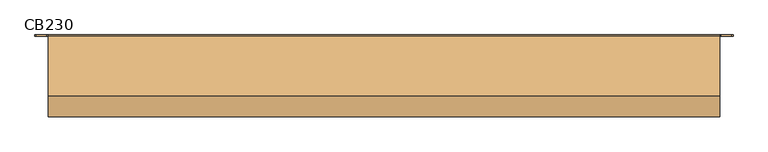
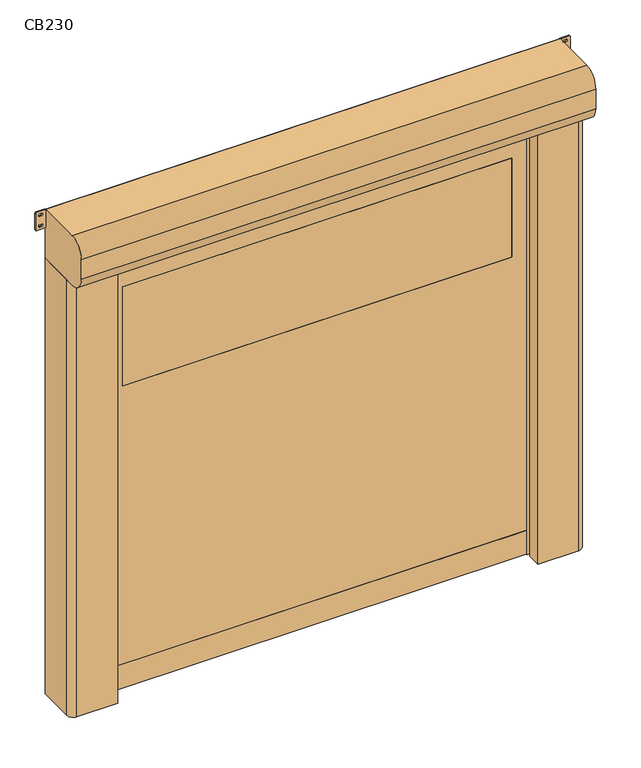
"""IFC4 building model written with IfcOpenShell, lengths in millimetres: door geometry, DO_WPB_Dynamicroll Cleanroom_BMP : CB230."""

from ifc_helpers import new_model, si_unit, point, frame, frame_2d, origin, origin_with_axes, place, context, project, spatial, polyline, circle_curve, trimmed, segment, composite_curve, outline, extrude, source, transform, mapped, element, save


def cb230_7affb9d1(model_context):
    return source(origin(), model_context, "Body", "SweptSolid", [
        extrude(outline(composite_curve([segment(trimmed(circle_curve(frame_2d((1416.6666667, 1136.0)), 6.0), [point((1422.6666667, 1136.0))], [point((1410.6666667, 1136.0))], False, "CARTESIAN"), True, "CONTINUOUS"), segment(polyline([(1410.6666667, 1136.0), (1410.6666667, 1154.0)]), True, "CONTINUOUS"), segment(trimmed(circle_curve(frame_2d((1416.6666667, 1154.0)), 6.0), [point((1410.6666667, 1154.0))], [point((1422.6666667, 1154.0))], False, "CARTESIAN"), True, "CONTINUOUS"), segment(polyline([(1422.6666667, 1154.0), (1422.6666667, 1136.0)]), True, "CONTINUOUS")], self_intersect=False)), frame((0.0, -20.0, 0.0), z_axis=(0.0, 1.0, 0.0), x_axis=(0.0, 0.0, 1.0)), (0.0, 0.0, 1.0), 20.0),
        extrude(outline(composite_curve([segment(trimmed(circle_curve(frame_2d((783.3333333, 1136.0)), 6.0), [point((789.3333333, 1136.0))], [point((777.3333333, 1136.0))], False, "CARTESIAN"), True, "CONTINUOUS"), segment(polyline([(777.3333333, 1136.0), (777.3333333, 1154.0)]), True, "CONTINUOUS"), segment(trimmed(circle_curve(frame_2d((783.3333333, 1154.0)), 6.0), [point((777.3333333, 1154.0))], [point((789.3333333, 1154.0))], False, "CARTESIAN"), True, "CONTINUOUS"), segment(polyline([(789.3333333, 1154.0), (789.3333333, 1136.0)]), True, "CONTINUOUS")], self_intersect=False)), frame((0.0, -20.0, 0.0), z_axis=(0.0, 1.0, 0.0), x_axis=(0.0, 0.0, 1.0)), (0.0, 0.0, 1.0), 20.0),
        extrude(outline(composite_curve([segment(trimmed(circle_curve(frame_2d((2050.0, 1136.0)), 6.0), [point((2056.0, 1136.0))], [point((2044.0, 1136.0))], False, "CARTESIAN"), True, "CONTINUOUS"), segment(polyline([(2044.0, 1136.0), (2044.0, 1154.0)]), True, "CONTINUOUS"), segment(trimmed(circle_curve(frame_2d((2050.0, 1154.0)), 6.0), [point((2044.0, 1154.0))], [point((2056.0, 1154.0))], False, "CARTESIAN"), True, "CONTINUOUS"), segment(polyline([(2056.0, 1154.0), (2056.0, 1136.0)]), True, "CONTINUOUS")], self_intersect=False)), frame((0.0, -20.0, 0.0), z_axis=(0.0, 1.0, 0.0), x_axis=(0.0, 0.0, 1.0)), (0.0, 0.0, 1.0), 20.0),
        extrude(outline(composite_curve([segment(trimmed(circle_curve(frame_2d((150.0, 1136.0)), 6.0), [point((156.0, 1136.0))], [point((144.0, 1136.0))], False, "CARTESIAN"), True, "CONTINUOUS"), segment(polyline([(144.0, 1136.0), (144.0, 1154.0)]), True, "CONTINUOUS"), segment(trimmed(circle_curve(frame_2d((150.0, 1154.0)), 6.0), [point((144.0, 1154.0))], [point((156.0, 1154.0))], False, "CARTESIAN"), True, "CONTINUOUS"), segment(polyline([(156.0, 1154.0), (156.0, 1136.0)]), True, "CONTINUOUS")], self_intersect=False)), frame((0.0, -20.0, 0.0), z_axis=(0.0, 1.0, 0.0), x_axis=(0.0, 0.0, 1.0)), (0.0, 0.0, 1.0), 20.0),
        extrude(outline(composite_curve([segment(polyline([(1422.6666667, -1136.0), (1422.6666667, -1154.0)]), True, "CONTINUOUS"), segment(trimmed(circle_curve(frame_2d((1416.6666667, -1154.0)), 6.0), [point((1422.6666667, -1154.0))], [point((1410.6666667, -1154.0))], False, "CARTESIAN"), True, "CONTINUOUS"), segment(polyline([(1410.6666667, -1154.0), (1410.6666667, -1136.0)]), True, "CONTINUOUS"), segment(trimmed(circle_curve(frame_2d((1416.6666667, -1136.0)), 6.0), [point((1410.6666667, -1136.0))], [point((1422.6666667, -1136.0))], False, "CARTESIAN"), True, "CONTINUOUS")], self_intersect=False)), frame((0.0, -20.0, 0.0), z_axis=(0.0, 1.0, 0.0), x_axis=(0.0, 0.0, 1.0)), (0.0, 0.0, 1.0), 20.0),
        extrude(outline(composite_curve([segment(polyline([(789.3333333, -1136.0), (789.3333333, -1154.0)]), True, "CONTINUOUS"), segment(trimmed(circle_curve(frame_2d((783.3333333, -1154.0)), 6.0), [point((789.3333333, -1154.0))], [point((777.3333333, -1154.0))], False, "CARTESIAN"), True, "CONTINUOUS"), segment(polyline([(777.3333333, -1154.0), (777.3333333, -1136.0)]), True, "CONTINUOUS"), segment(trimmed(circle_curve(frame_2d((783.3333333, -1136.0)), 6.0), [point((777.3333333, -1136.0))], [point((789.3333333, -1136.0))], False, "CARTESIAN"), True, "CONTINUOUS")], self_intersect=False)), frame((0.0, -20.0, 0.0), z_axis=(0.0, 1.0, 0.0), x_axis=(0.0, 0.0, 1.0)), (0.0, 0.0, 1.0), 20.0),
        extrude(outline(composite_curve([segment(polyline([(2056.0, -1136.0), (2056.0, -1154.0)]), True, "CONTINUOUS"), segment(trimmed(circle_curve(frame_2d((2050.0, -1154.0)), 6.0), [point((2056.0, -1154.0))], [point((2044.0, -1154.0))], False, "CARTESIAN"), True, "CONTINUOUS"), segment(polyline([(2044.0, -1154.0), (2044.0, -1136.0)]), True, "CONTINUOUS"), segment(trimmed(circle_curve(frame_2d((2050.0, -1136.0)), 6.0), [point((2044.0, -1136.0))], [point((2056.0, -1136.0))], False, "CARTESIAN"), True, "CONTINUOUS")], self_intersect=False)), frame((0.0, -20.0, 0.0), z_axis=(0.0, 1.0, 0.0), x_axis=(0.0, 0.0, 1.0)), (0.0, 0.0, 1.0), 20.0),
        extrude(outline(composite_curve([segment(polyline([(156.0, -1136.0), (156.0, -1154.0)]), True, "CONTINUOUS"), segment(trimmed(circle_curve(frame_2d((150.0, -1154.0)), 6.0), [point((156.0, -1154.0))], [point((144.0, -1154.0))], False, "CARTESIAN"), True, "CONTINUOUS"), segment(polyline([(144.0, -1154.0), (144.0, -1136.0)]), True, "CONTINUOUS"), segment(trimmed(circle_curve(frame_2d((150.0, -1136.0)), 6.0), [point((144.0, -1136.0))], [point((156.0, -1136.0))], False, "CARTESIAN"), True, "CONTINUOUS")], self_intersect=False)), frame((0.0, -20.0, 0.0), z_axis=(0.0, 1.0, 0.0), x_axis=(0.0, 0.0, 1.0)), (0.0, 0.0, 1.0), 20.0),
        extrude(outline(composite_curve([segment(trimmed(circle_curve(frame_2d((1526.0, 929.0)), 1.0), [point((1525.0, 929.0))], [point((1526.0, 930.0))], False, "CARTESIAN"), True, "CONTINUOUS"), segment(polyline([(1526.0, 930.0), (2024.0, 930.0)]), True, "CONTINUOUS"), segment(trimmed(circle_curve(frame_2d((2024.0, 929.0)), 1.0), [point((2024.0, 930.0))], [point((2025.0, 929.0))], False, "CARTESIAN"), True, "CONTINUOUS"), segment(polyline([(2025.0, 929.0), (2025.0, -929.0)]), True, "CONTINUOUS"), segment(trimmed(circle_curve(frame_2d((2024.0, -929.0)), 1.0), [point((2025.0, -929.0))], [point((2024.0, -930.0))], False, "CARTESIAN"), True, "CONTINUOUS"), segment(polyline([(2024.0, -930.0), (1526.0, -930.0)]), True, "CONTINUOUS"), segment(trimmed(circle_curve(frame_2d((1526.0, -929.0)), 1.0), [point((1526.0, -930.0))], [point((1525.0, -929.0))], False, "CARTESIAN"), True, "CONTINUOUS"), segment(polyline([(1525.0, -929.0), (1525.0, 929.0)]), True, "CONTINUOUS")], self_intersect=False)), frame((0.0, -123.5, 0.0), z_axis=(0.0, 1.0, 0.0), x_axis=(0.0, 0.0, 1.0)), (0.0, 0.0, 1.0), 7.0),
        extrude(outline(polyline([(120.0, -1012.0), (120.0, 1012.0), (2325.0, 1012.0), (2325.0, -1012.0), (120.0, -1012.0)]), holes=[composite_curve([segment(trimmed(circle_curve(frame_2d((1526.0, 929.0)), 1.0), [point((1526.0, 930.0))], [point((1525.0, 929.0))], True, "CARTESIAN"), True, "CONTINUOUS"), segment(polyline([(1525.0, 929.0), (1525.0, -929.0)]), True, "CONTINUOUS"), segment(trimmed(circle_curve(frame_2d((1526.0, -929.0)), 1.0), [point((1525.0, -929.0))], [point((1526.0, -930.0))], True, "CARTESIAN"), True, "CONTINUOUS"), segment(polyline([(1526.0, -930.0), (2024.0, -930.0)]), True, "CONTINUOUS"), segment(trimmed(circle_curve(frame_2d((2024.0, -929.0)), 1.0), [point((2024.0, -930.0))], [point((2025.0, -929.0))], True, "CARTESIAN"), True, "CONTINUOUS"), segment(polyline([(2025.0, -929.0), (2025.0, 929.0)]), True, "CONTINUOUS"), segment(trimmed(circle_curve(frame_2d((2024.0, 929.0)), 1.0), [point((2025.0, 929.0))], [point((2024.0, 930.0))], True, "CARTESIAN"), True, "CONTINUOUS"), segment(polyline([(2024.0, 930.0), (1526.0, 930.0)]), True, "CONTINUOUS")], self_intersect=False)]), frame((0.0, -123.5, 0.0), z_axis=(0.0, 1.0, 0.0), x_axis=(0.0, 0.0, 1.0)), (0.0, 0.0, 1.0), 7.0),
        extrude(outline(polyline([(-1012.0, -114.5), (1012.0, -114.5), (1012.0, -125.5), (-1012.0, -125.5), (-1012.0, -114.5)])), origin_with_axes(), (0.0, 0.0, 1.0), 120.0),
        extrude(outline(composite_curve([segment(trimmed(circle_curve(frame_2d((2363.75, 1235.75)), 5.75), [point((2363.75, 1230.0))], [point((2358.0, 1235.75))], False, "CARTESIAN"), True, "CONTINUOUS"), segment(polyline([(2358.0, 1235.75), (2358.0, 1273.25)]), True, "CONTINUOUS"), segment(trimmed(circle_curve(frame_2d((2363.75, 1273.25)), 5.75), [point((2358.0, 1273.25))], [point((2363.75, 1279.0))], False, "CARTESIAN"), True, "CONTINUOUS"), segment(polyline([(2363.75, 1279.0), (2444.25, 1279.0)]), True, "CONTINUOUS"), segment(trimmed(circle_curve(frame_2d((2444.25, 1273.25)), 5.75), [point((2444.25, 1279.0))], [point((2450.0, 1273.25))], False, "CARTESIAN"), True, "CONTINUOUS"), segment(polyline([(2450.0, 1273.25), (2450.0, 1235.75)]), True, "CONTINUOUS"), segment(trimmed(circle_curve(frame_2d((2444.25, 1235.75)), 5.75), [point((2450.0, 1235.75))], [point((2444.25, 1230.0))], False, "CARTESIAN"), True, "CONTINUOUS"), segment(polyline([(2444.25, 1230.0), (2363.75, 1230.0)]), True, "CONTINUOUS")], self_intersect=False), holes=[composite_curve([segment(trimmed(circle_curve(frame_2d((2431.5, 1258.75)), 5.75), [point((2437.25, 1258.75))], [point((2425.75, 1258.75))], True, "CARTESIAN"), True, "CONTINUOUS"), segment(polyline([(2425.75, 1258.75), (2425.75, 1250.25)]), True, "CONTINUOUS"), segment(trimmed(circle_curve(frame_2d((2431.5, 1250.25)), 5.75), [point((2425.75, 1250.25))], [point((2437.25, 1250.25))], True, "CARTESIAN"), True, "CONTINUOUS"), segment(polyline([(2437.25, 1250.25), (2437.25, 1258.75)]), True, "CONTINUOUS")], self_intersect=False), composite_curve([segment(trimmed(circle_curve(frame_2d((2376.5, 1258.75)), 5.75), [point((2382.25, 1258.75))], [point((2370.75, 1258.75))], True, "CARTESIAN"), True, "CONTINUOUS"), segment(polyline([(2370.75, 1258.75), (2370.75, 1250.25)]), True, "CONTINUOUS"), segment(trimmed(circle_curve(frame_2d((2376.5, 1250.25)), 5.75), [point((2370.75, 1250.25))], [point((2382.25, 1250.25))], True, "CARTESIAN"), True, "CONTINUOUS"), segment(polyline([(2382.25, 1250.25), (2382.25, 1258.75)]), True, "CONTINUOUS")], self_intersect=False)]), frame((0.0, -5.0, 0.0), z_axis=(0.0, 1.0, 0.0), x_axis=(0.0, 0.0, 1.0)), (0.0, 0.0, 1.0), 5.0),
        extrude(outline(composite_curve([segment(trimmed(circle_curve(frame_2d((2363.75, -1273.25)), 5.75), [point((2363.75, -1279.0))], [point((2358.0, -1273.25))], False, "CARTESIAN"), True, "CONTINUOUS"), segment(polyline([(2358.0, -1273.25), (2358.0, -1235.75)]), True, "CONTINUOUS"), segment(trimmed(circle_curve(frame_2d((2363.75, -1235.75)), 5.75), [point((2358.0, -1235.75))], [point((2363.75, -1230.0))], False, "CARTESIAN"), True, "CONTINUOUS"), segment(polyline([(2363.75, -1230.0), (2444.25, -1230.0)]), True, "CONTINUOUS"), segment(trimmed(circle_curve(frame_2d((2444.25, -1235.75)), 5.75), [point((2444.25, -1230.0))], [point((2450.0, -1235.75))], False, "CARTESIAN"), True, "CONTINUOUS"), segment(polyline([(2450.0, -1235.75), (2450.0, -1273.25)]), True, "CONTINUOUS"), segment(trimmed(circle_curve(frame_2d((2444.25, -1273.25)), 5.75), [point((2450.0, -1273.25))], [point((2444.25, -1279.0))], False, "CARTESIAN"), True, "CONTINUOUS"), segment(polyline([(2444.25, -1279.0), (2363.75, -1279.0)]), True, "CONTINUOUS")], self_intersect=False), holes=[composite_curve([segment(trimmed(circle_curve(frame_2d((2431.5, -1250.25)), 5.75), [point((2437.25, -1250.25))], [point((2425.75, -1250.25))], True, "CARTESIAN"), True, "CONTINUOUS"), segment(polyline([(2425.75, -1250.25), (2425.75, -1258.75)]), True, "CONTINUOUS"), segment(trimmed(circle_curve(frame_2d((2431.5, -1258.75)), 5.75), [point((2425.75, -1258.75))], [point((2437.25, -1258.75))], True, "CARTESIAN"), True, "CONTINUOUS"), segment(polyline([(2437.25, -1258.75), (2437.25, -1250.25)]), True, "CONTINUOUS")], self_intersect=False), composite_curve([segment(trimmed(circle_curve(frame_2d((2376.5, -1250.25)), 5.75), [point((2382.25, -1250.25))], [point((2370.75, -1250.25))], True, "CARTESIAN"), True, "CONTINUOUS"), segment(polyline([(2370.75, -1250.25), (2370.75, -1258.75)]), True, "CONTINUOUS"), segment(trimmed(circle_curve(frame_2d((2376.5, -1258.75)), 5.75), [point((2370.75, -1258.75))], [point((2382.25, -1258.75))], True, "CARTESIAN"), True, "CONTINUOUS"), segment(polyline([(2382.25, -1258.75), (2382.25, -1250.25)]), True, "CONTINUOUS")], self_intersect=False)]), frame((0.0, -5.0, 0.0), z_axis=(0.0, 1.0, 0.0), x_axis=(0.0, 0.0, 1.0)), (0.0, 0.0, 1.0), 5.0),
        extrude(outline(composite_curve([segment(polyline([(-1230.0, 0.0), (-1015.0, 0.0), (-1015.0, -104.2857143), (-1035.0, -110.0), (-1000.0, -110.0), (-1000.0, -116.5), (-1020.0, -116.5), (-1020.0, -123.5), (-1000.0, -123.5), (-1000.0, -130.0), (-1035.0, -130.0), (-1035.0, -145.0), (-1005.0, -145.0), (-1005.0, -210.0), (-1200.0, -210.0)]), True, "CONTINUOUS"), segment(trimmed(circle_curve(frame_2d((-1200.0, -180.0)), 30.0), [point((-1200.0, -210.0))], [point((-1230.0, -180.0))], False, "CARTESIAN"), True, "CONTINUOUS"), segment(polyline([(-1230.0, -180.0), (-1230.0, 0.0)]), True, "CONTINUOUS")], self_intersect=False)), origin_with_axes(), (0.0, 0.0, 1.0), 2200.0),
        extrude(outline(composite_curve([segment(polyline([(1230.0, 0.0), (1230.0, -180.0)]), True, "CONTINUOUS"), segment(trimmed(circle_curve(frame_2d((1200.0, -180.0)), 30.0), [point((1230.0, -180.0))], [point((1200.0, -210.0))], False, "CARTESIAN"), True, "CONTINUOUS"), segment(polyline([(1200.0, -210.0), (1005.0, -210.0), (1005.0, -145.0), (1035.0, -145.0), (1035.0, -130.0), (1000.0, -130.0), (1000.0, -123.5), (1020.0, -123.5), (1020.0, -116.5), (1000.0, -116.5), (1000.0, -110.0), (1035.0, -110.0), (1015.0, -104.2857143), (1015.0, 0.0), (1230.0, 0.0)]), True, "CONTINUOUS")], self_intersect=False)), origin_with_axes(), (0.0, 0.0, 1.0), 2200.0),
        extrude(outline(composite_curve([segment(trimmed(circle_curve(frame_2d((-5.0, 2205.0)), 5.0), [point((0.0, 2205.0))], [point((-5.0, 2200.0))], False, "CARTESIAN"), True, "CONTINUOUS"), segment(polyline([(-5.0, 2200.0), (-225.0, 2200.0)]), True, "CONTINUOUS"), segment(trimmed(circle_curve(frame_2d((-225.0, 2275.0)), 75.0), [point((-225.0, 2200.0))], [point((-300.0, 2275.0))], False, "CARTESIAN"), True, "CONTINUOUS"), segment(polyline([(-300.0, 2275.0), (-300.0, 2375.0)]), True, "CONTINUOUS"), segment(trimmed(circle_curve(frame_2d((-225.0, 2375.0)), 75.0), [point((-300.0, 2375.0))], [point((-225.0, 2450.0))], False, "CARTESIAN"), True, "CONTINUOUS"), segment(polyline([(-225.0, 2450.0), (-5.0, 2450.0)]), True, "CONTINUOUS"), segment(trimmed(circle_curve(frame_2d((-5.0, 2445.0)), 5.0), [point((-5.0, 2450.0))], [point((0.0, 2445.0))], False, "CARTESIAN"), True, "CONTINUOUS"), segment(polyline([(0.0, 2445.0), (0.0, 2205.0)]), True, "CONTINUOUS")], self_intersect=False)), frame((-1230.0, 0.0, 0.0), z_axis=(1.0, 0.0, 0.0), x_axis=(0.0, 1.0, 0.0)), (0.0, 0.0, 1.0), 2460.0),
    ])


if __name__ == "__main__":
    model = new_model("IFC4")
    model_context = context("Model", 3, world=origin())
    ifc_project = project(units=[si_unit("LENGTHUNIT", "METRE", prefix="MILLI")], contexts=[model_context])
    site = spatial("IfcSite", under=ifc_project)
    building = spatial("IfcBuilding", under=site)
    placement = place(None, origin())
    cb230_shape = cb230_7affb9d1(model_context)
    element("IfcDoor", 1, ObjectType="DO_WPB_Dynamicroll Cleanroom_BMP : CB230", at=placement, inside=building, context=model_context, shape_type="MappedRepresentation", body=[
        mapped(cb230_shape, transform((0.0, 0.0, 0.0), x_axis=(1.0, 0.0, 0.0), y_axis=(0.0, 1.0, 0.0), z_axis=(0.0, 0.0, 1.0))),
    ])
    save(model, "model.ifc")
